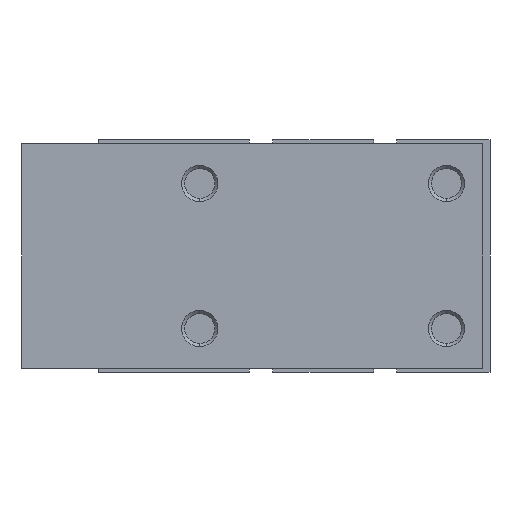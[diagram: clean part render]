
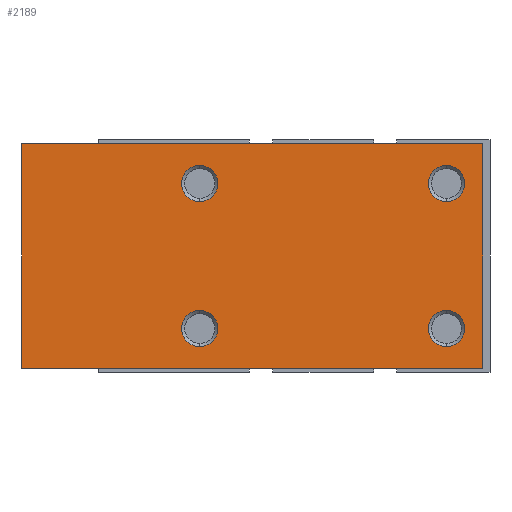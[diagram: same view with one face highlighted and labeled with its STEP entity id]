
A CAD part, left-side view. The second image highlights one B-rep face of the part: STEP entity #2189.
In plain terms, the highlighted planar face has unit normal (-1, 0, 0).
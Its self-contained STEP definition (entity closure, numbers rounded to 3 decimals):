
#22 = AXIS2_PLACEMENT_3D ( 'NONE', #5442, #3171, #1747 ) ;
#29 = CARTESIAN_POINT ( 'NONE',  ( -15.5, 17., 10. ) ) ;
#86 = VERTEX_POINT ( 'NONE', #3271 ) ;
#134 = CARTESIAN_POINT ( 'NONE',  ( -15.5, -17., -7.5 ) ) ;
#167 = CARTESIAN_POINT ( 'NONE',  ( -15.5, -22., 15.5 ) ) ;
#293 = ORIENTED_EDGE ( 'NONE', *, *, #1703, .T. ) ;
#310 = CIRCLE ( 'NONE', #1451, 2.5 ) ;
#413 = EDGE_CURVE ( 'NONE', #2754, #2770, #2645, .T. ) ;
#465 = CARTESIAN_POINT ( 'NONE',  ( -15.5, -17., 7.5 ) ) ;
#571 = ORIENTED_EDGE ( 'NONE', *, *, #1185, .F. ) ;
#677 = LINE ( 'NONE', #167, #3038 ) ;
#689 = DIRECTION ( 'NONE',  ( 0., 0., 1. ) ) ;
#704 = DIRECTION ( 'NONE',  ( -1., 0., 0. ) ) ;
#767 = CIRCLE ( 'NONE', #3284, 2.5 ) ;
#781 = DIRECTION ( 'NONE',  ( -1., 0., 0. ) ) ;
#786 = ORIENTED_EDGE ( 'NONE', *, *, #2859, .F. ) ;
#946 = VECTOR ( 'NONE', #3374, 1000. ) ;
#977 = ORIENTED_EDGE ( 'NONE', *, *, #1790, .F. ) ;
#1064 = AXIS2_PLACEMENT_3D ( 'NONE', #5369, #704, #1578 ) ;
#1128 = EDGE_LOOP ( 'NONE', ( #4676, #2282 ) ) ;
#1171 = DIRECTION ( 'NONE',  ( -1., 0., 0. ) ) ;
#1185 = EDGE_CURVE ( 'NONE', #3807, #86, #677, .T. ) ;
#1433 = FACE_BOUND ( 'NONE', #3243, .T. ) ;
#1451 = AXIS2_PLACEMENT_3D ( 'NONE', #29, #3827, #5664 ) ;
#1488 = CARTESIAN_POINT ( 'NONE',  ( -15.5, -17., -12.5 ) ) ;
#1551 = AXIS2_PLACEMENT_3D ( 'NONE', #3002, #5815, #5354 ) ;
#1578 = DIRECTION ( 'NONE',  ( 0., 0., 1. ) ) ;
#1703 = EDGE_CURVE ( 'NONE', #6043, #3763, #5544, .T. ) ;
#1747 = DIRECTION ( 'NONE',  ( 0., 0., 1. ) ) ;
#1789 = VERTEX_POINT ( 'NONE', #4198 ) ;
#1790 = EDGE_CURVE ( 'NONE', #1909, #2746, #310, .T. ) ;
#1800 = VERTEX_POINT ( 'NONE', #5632 ) ;
#1887 = EDGE_CURVE ( 'NONE', #4187, #1800, #5358, .T. ) ;
#1899 = ORIENTED_EDGE ( 'NONE', *, *, #5549, .F. ) ;
#1909 = VERTEX_POINT ( 'NONE', #4438 ) ;
#1926 = DIRECTION ( 'NONE',  ( 0., 1., 0. ) ) ;
#2052 = DIRECTION ( 'NONE',  ( 0., 0., 1. ) ) ;
#2101 = CARTESIAN_POINT ( 'NONE',  ( -15.5, 41.5, 15.5 ) ) ;
#2184 = EDGE_LOOP ( 'NONE', ( #1899, #977 ) ) ;
#2189 = ADVANCED_FACE ( 'NONE', ( #5197, #3208, #4648, #1433, #5599 ), #4623, .F. ) ;
#2191 = DIRECTION ( 'NONE',  ( 0., 0., 1. ) ) ;
#2276 = ORIENTED_EDGE ( 'NONE', *, *, #4233, .F. ) ;
#2282 = ORIENTED_EDGE ( 'NONE', *, *, #5514, .F. ) ;
#2371 = CARTESIAN_POINT ( 'NONE',  ( -15.5, -22., 15.5 ) ) ;
#2400 = CARTESIAN_POINT ( 'NONE',  ( -15.5, 17., 12.5 ) ) ;
#2594 = AXIS2_PLACEMENT_3D ( 'NONE', #2652, #4056, #2191 ) ;
#2622 = VECTOR ( 'NONE', #3134, 1000. ) ;
#2645 = CIRCLE ( 'NONE', #22, 2.5 ) ;
#2652 = CARTESIAN_POINT ( 'NONE',  ( -15.5, 17., -10. ) ) ;
#2746 = VERTEX_POINT ( 'NONE', #2400 ) ;
#2754 = VERTEX_POINT ( 'NONE', #1488 ) ;
#2770 = VERTEX_POINT ( 'NONE', #134 ) ;
#2859 = EDGE_CURVE ( 'NONE', #1800, #4187, #5133, .T. ) ;
#3002 = CARTESIAN_POINT ( 'NONE',  ( -15.5, 17., -10. ) ) ;
#3025 = EDGE_LOOP ( 'NONE', ( #5980, #571, #2276, #293 ) ) ;
#3038 = VECTOR ( 'NONE', #4791, 1000. ) ;
#3134 = DIRECTION ( 'NONE',  ( 0., 0., -1. ) ) ;
#3171 = DIRECTION ( 'NONE',  ( -1., 0., 0. ) ) ;
#3208 = FACE_BOUND ( 'NONE', #4780, .T. ) ;
#3243 = EDGE_LOOP ( 'NONE', ( #4391, #4669 ) ) ;
#3271 = CARTESIAN_POINT ( 'NONE',  ( -15.5, -22., -15.5 ) ) ;
#3278 = EDGE_CURVE ( 'NONE', #3763, #86, #5183, .T. ) ;
#3284 = AXIS2_PLACEMENT_3D ( 'NONE', #4757, #3839, #4329 ) ;
#3374 = DIRECTION ( 'NONE',  ( 0., -1., 0. ) ) ;
#3589 = CARTESIAN_POINT ( 'NONE',  ( -15.5, 41.5, 15.5 ) ) ;
#3704 = VERTEX_POINT ( 'NONE', #465 ) ;
#3763 = VERTEX_POINT ( 'NONE', #5013 ) ;
#3785 = CARTESIAN_POINT ( 'NONE',  ( -15.5, 41.5, 15.5 ) ) ;
#3807 = VERTEX_POINT ( 'NONE', #2371 ) ;
#3827 = DIRECTION ( 'NONE',  ( -1., 0., 0. ) ) ;
#3839 = DIRECTION ( 'NONE',  ( -1., 0., 0. ) ) ;
#3930 = EDGE_CURVE ( 'NONE', #1789, #3704, #5648, .T. ) ;
#3972 = CARTESIAN_POINT ( 'NONE',  ( -15.5, 17., 10. ) ) ;
#4056 = DIRECTION ( 'NONE',  ( -1., 0., 0. ) ) ;
#4187 = VERTEX_POINT ( 'NONE', #5300 ) ;
#4191 = DIRECTION ( 'NONE',  ( 1., 0., 0. ) ) ;
#4198 = CARTESIAN_POINT ( 'NONE',  ( -15.5, -17., 12.5 ) ) ;
#4233 = EDGE_CURVE ( 'NONE', #6043, #3807, #4837, .T. ) ;
#4318 = DIRECTION ( 'NONE',  ( 0., -1., 0. ) ) ;
#4329 = DIRECTION ( 'NONE',  ( 0., 0., 1. ) ) ;
#4391 = ORIENTED_EDGE ( 'NONE', *, *, #5129, .F. ) ;
#4438 = CARTESIAN_POINT ( 'NONE',  ( -15.5, 17., 7.5 ) ) ;
#4486 = CIRCLE ( 'NONE', #5560, 2.5 ) ;
#4623 = PLANE ( 'NONE',  #4641 ) ;
#4641 = AXIS2_PLACEMENT_3D ( 'NONE', #3785, #4191, #1926 ) ;
#4648 = FACE_BOUND ( 'NONE', #1128, .T. ) ;
#4669 = ORIENTED_EDGE ( 'NONE', *, *, #413, .F. ) ;
#4676 = ORIENTED_EDGE ( 'NONE', *, *, #3930, .F. ) ;
#4757 = CARTESIAN_POINT ( 'NONE',  ( -15.5, -17., -10. ) ) ;
#4767 = VECTOR ( 'NONE', #4318, 1000. ) ;
#4777 = CARTESIAN_POINT ( 'NONE',  ( -15.5, 41.5, 15.5 ) ) ;
#4780 = EDGE_LOOP ( 'NONE', ( #786, #4876 ) ) ;
#4791 = DIRECTION ( 'NONE',  ( 0., 0., -1. ) ) ;
#4837 = LINE ( 'NONE', #4777, #4767 ) ;
#4876 = ORIENTED_EDGE ( 'NONE', *, *, #1887, .F. ) ;
#4963 = CARTESIAN_POINT ( 'NONE',  ( -15.5, -17., 10. ) ) ;
#4979 = AXIS2_PLACEMENT_3D ( 'NONE', #3972, #1171, #2052 ) ;
#5013 = CARTESIAN_POINT ( 'NONE',  ( -15.5, 41.5, -15.5 ) ) ;
#5129 = EDGE_CURVE ( 'NONE', #2770, #2754, #767, .T. ) ;
#5133 = CIRCLE ( 'NONE', #2594, 2.5 ) ;
#5164 = CIRCLE ( 'NONE', #4979, 2.5 ) ;
#5183 = LINE ( 'NONE', #5306, #946 ) ;
#5197 = FACE_OUTER_BOUND ( 'NONE', #3025, .T. ) ;
#5300 = CARTESIAN_POINT ( 'NONE',  ( -15.5, 17., -12.5 ) ) ;
#5306 = CARTESIAN_POINT ( 'NONE',  ( -15.5, 41.5, -15.5 ) ) ;
#5354 = DIRECTION ( 'NONE',  ( 0., 0., 1. ) ) ;
#5358 = CIRCLE ( 'NONE', #1551, 2.5 ) ;
#5369 = CARTESIAN_POINT ( 'NONE',  ( -15.5, -17., 10. ) ) ;
#5442 = CARTESIAN_POINT ( 'NONE',  ( -15.5, -17., -10. ) ) ;
#5514 = EDGE_CURVE ( 'NONE', #3704, #1789, #4486, .T. ) ;
#5544 = LINE ( 'NONE', #3589, #2622 ) ;
#5549 = EDGE_CURVE ( 'NONE', #2746, #1909, #5164, .T. ) ;
#5560 = AXIS2_PLACEMENT_3D ( 'NONE', #4963, #781, #689 ) ;
#5599 = FACE_BOUND ( 'NONE', #2184, .T. ) ;
#5632 = CARTESIAN_POINT ( 'NONE',  ( -15.5, 17., -7.5 ) ) ;
#5648 = CIRCLE ( 'NONE', #1064, 2.5 ) ;
#5664 = DIRECTION ( 'NONE',  ( 0., 0., 1. ) ) ;
#5815 = DIRECTION ( 'NONE',  ( -1., 0., 0. ) ) ;
#5980 = ORIENTED_EDGE ( 'NONE', *, *, #3278, .T. ) ;
#6043 = VERTEX_POINT ( 'NONE', #2101 ) ;
